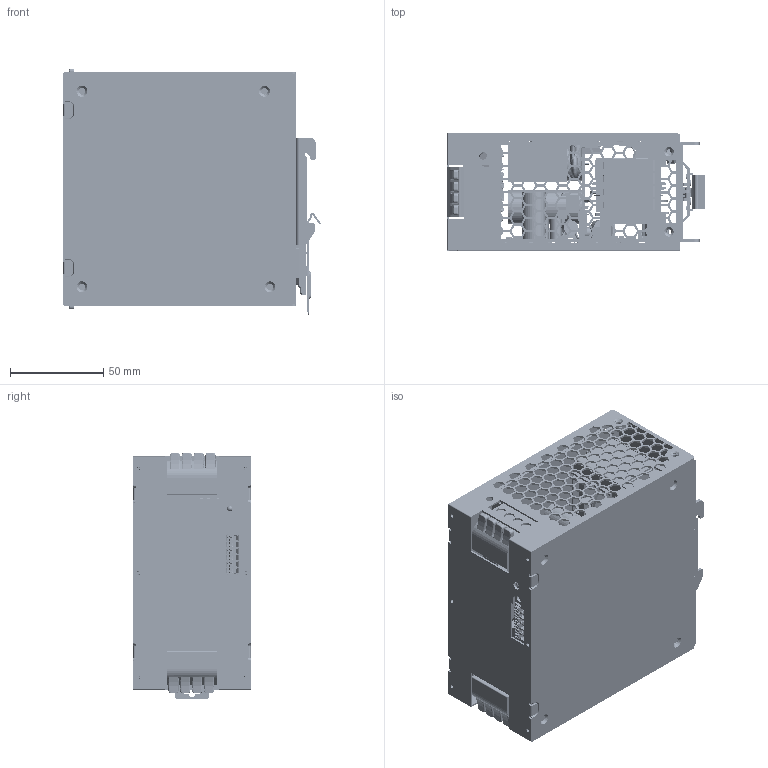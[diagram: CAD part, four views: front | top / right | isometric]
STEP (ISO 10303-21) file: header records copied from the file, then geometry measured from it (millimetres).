
FILE_DESCRIPTION(('Creo Elements/Direct Modeling STEP Export'),'2;1');
FILE_NAME('XTR-480LA.stp','2025-03-31T13:38:33',(''),(''),'Creo Elements/Direct Modeling STEP processor for AP214 (Solid Model)','Creo Elements/Direct Modeling 19.0G 27-Nov-2017 (C) Parametric Technology GmbH','');
FILE_SCHEMA(('AUTOMOTIVE_DESIGN { 1 0 10303 214 1 1 1 1 }'));
Length unit declared in the file: millimetre
Products named in the file (1167): FT-63EP_1-704230_PRT-7120700.PRT; _X2_4E0A76D6_X0__1-7110740.PRT; SDR-120_-____STP-7111070.ASM; _X2_4E0B76D6_X0__1_2-6654790.PRT; _X2_4E0B76D6_X0__1_1-6599560.PRT; _X2_4E0B76D6_X0_-6655120.ASM; _X2_88C5914D_X0_1-7111350.ASM; NSDR-960_X2_673A58F3_X0-7111670.ASM; 1FF1DH2I-2X7_STP-6581320.PRT; VR_PRT-6580800.PRT; _X2_75354F4D5668_X0__ST-6581040.ASM; _X2_88C5914D_X0_1-6580560.PRT; DRP14-R4-6580320.PRT; _X2_96F64EF6_X0_-6581560.ASM; PDR960-7111950.ASM; PTR-480_1-7121040.ASM; BOARD.PRT; CYLINDER-3294.PRT; 551263888.ASM; CYLINDER-3486.PRT; 551264040.ASM; CYLINDER-3678.PRT; 551264192.ASM; SPHERE-3870.PRT; 551264344.ASM; SPHERE-3924.PRT; 551264496.ASM; CYLINDER-3978.PRT; 551264648.ASM; CYLINDER-4170.PRT; 551264800.ASM; C107.ASM; CYLINDER-4401.PRT; 551264952.ASM; CYLINDER-4593.PRT; 760908904.ASM; CYLINDER-4790.PRT; 551265104.ASM; EXTRUDED.PRT; 550406832.ASM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
Assembly tree (1835 placements, depth 9):
  LA.ASM
    PCBNEW.1
      XTR-480E-R0.step
        PCB.ASM
          D36.ASM
            2CDX-SMC.PRT
          D33.ASM
            2CDX-SMC.PRT
          C50.ASM
            760907080.PRT
          C47.ASM
            760907080.PRT
          C39.ASM
            760907080.PRT
          C37.ASM
            760907080.PRT
          C5.ASM
            760911792.ASM  x4
              CYLINDER-6648.PRT
            760914832.ASM
              CYLINDER-7037.PRT
            760914984.ASM
              CYLINDER-6845.PRT
            550406192.ASM
              EXTRUDED-3390.PRT
          C6.ASM
            550406352.ASM
              EXTRUDED-7877.PRT
            760915136.ASM  x4
              CYLINDER-7286.PRT
            760915288.ASM
              CYLINDER-7675.PRT
            760915440.ASM
              CYLINDER-7483.PRT
          C7.ASM
            760911792.ASM  x4
              CYLINDER-6648.PRT
            760914832.ASM
              CYLINDER-7037.PRT
            760914984.ASM
              CYLINDER-6845.PRT
            550406192.ASM
              EXTRUDED-3390.PRT
          BOARD.PRT
      XTR-480D-R0.step
        PCB.ASM
          FREE-MODELS.ASM
            864784704.ASM
              EXTRUDED-420222.PRT
          R217.ASM
            760890664.ASM
              760890664_4.PRT
              760890664_3.PRT
              760890664_2.PRT
              760890664_1.PRT
          J10.ASM
            760900240.ASM
              760900240_4.PRT
              760900240_3.PRT
              760900240_2.PRT
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Bounding box: 138.78 x 63 x 132.59 mm (x, y, z)
Volume: 334939.6 mm3; surface area: 334218.7 mm2
Topology: 1627 solids, 1630 shells, 42280 faces, 108482 edges, 70271 vertices
Faces by surface type: plane 24659, extrusion 9716, cylinder 5820, sphere 1319, torus 400, bspline 178, cone 166, revolution 22
Entity records: 490089 total; most frequent: CARTESIAN_POINT 132818, ORIENTED_EDGE 63448, DIRECTION 58667, EDGE_CURVE 31796, VECTOR 24342, LINE 23162, VERTEX_POINT 20914, AXIS2_PLACEMENT_3D 17158
